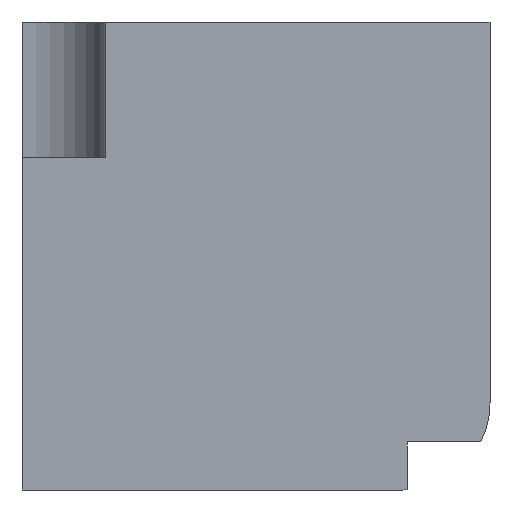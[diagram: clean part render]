
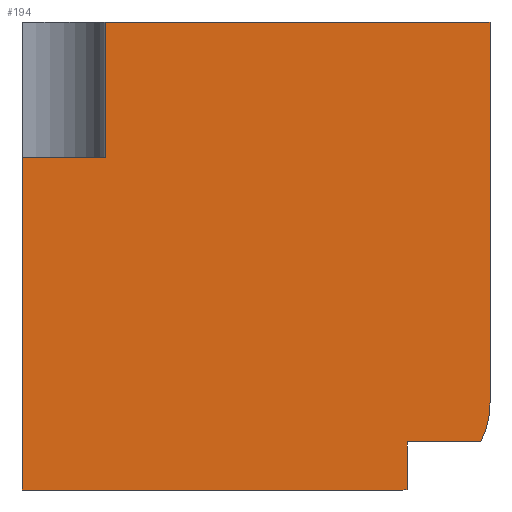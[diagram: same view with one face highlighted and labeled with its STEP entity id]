
A CAD part, left-side view. The second image highlights one B-rep face of the part: STEP entity #194.
In plain terms, the highlighted planar face has unit normal (-1, 0, 0).
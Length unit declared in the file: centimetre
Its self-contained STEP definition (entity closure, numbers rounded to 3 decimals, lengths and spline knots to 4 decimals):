
#6 = DIRECTION ( 'NONE',  ( 0., -1., 0. ) ) ;
#16 = CARTESIAN_POINT ( 'NONE',  ( 0., 1000., 0. ) ) ;
#21 = FACE_OUTER_BOUND ( 'NONE', #786, .T. ) ;
#22 = CARTESIAN_POINT ( 'NONE',  ( 0., 186.0285, 186.0285 ) ) ;
#26 = LINE ( 'NONE', #349, #1265 ) ;
#36 = VERTEX_POINT ( 'NONE', #1398 ) ;
#66 = VECTOR ( 'NONE', #240, 100. ) ;
#97 = ORIENTED_EDGE ( 'NONE', *, *, #914, .F. ) ;
#102 = CARTESIAN_POINT ( 'NONE',  ( 0., 1000., 1000. ) ) ;
#107 = VERTEX_POINT ( 'NONE', #1270 ) ;
#116 = CARTESIAN_POINT ( 'NONE',  ( 0., 176.9254, 0. ) ) ;
#123 = DIRECTION ( 'NONE',  ( 0., -1., 0. ) ) ;
#127 = ORIENTED_EDGE ( 'NONE', *, *, #879, .T. ) ;
#138 = ORIENTED_EDGE ( 'NONE', *, *, #1038, .T. ) ;
#143 = DIRECTION ( 'NONE',  ( 0., 0., -1. ) ) ;
#149 = VECTOR ( 'NONE', #143, 100. ) ;
#158 = EDGE_CURVE ( 'NONE', #706, #1062, #951, .T. ) ;
#170 = VECTOR ( 'NONE', #260, 100. ) ;
#194 = ADVANCED_FACE ( 'NONE', ( #21 ), #373, .F. ) ;
#213 = VERTEX_POINT ( 'NONE', #1436 ) ;
#217 = CARTESIAN_POINT ( 'NONE',  ( 0., 176.9254, 0.2229 ) ) ;
#230 = VECTOR ( 'NONE', #1059, 100. ) ;
#240 = DIRECTION ( 'NONE',  ( 0., -1., 0. ) ) ;
#256 = ORIENTED_EDGE ( 'NONE', *, *, #680, .T. ) ;
#260 = DIRECTION ( 'NONE',  ( 0., 0., -1. ) ) ;
#267 = DIRECTION ( 'NONE',  ( 0., 0., -1. ) ) ;
#315 = VECTOR ( 'NONE', #720, 100. ) ;
#349 = CARTESIAN_POINT ( 'NONE',  ( 0., 1000., 709.7481 ) ) ;
#358 = DIRECTION ( 'NONE',  ( -1., 0., 0. ) ) ;
#373 = PLANE ( 'NONE',  #1296 ) ;
#382 = LINE ( 'NONE', #116, #149 ) ;
#415 = LINE ( 'NONE', #874, #315 ) ;
#493 = CARTESIAN_POINT ( 'NONE',  ( 0., 1000., 1000. ) ) ;
#537 = ORIENTED_EDGE ( 'NONE', *, *, #1033, .T. ) ;
#547 = VERTEX_POINT ( 'NONE', #1223 ) ;
#559 = VECTOR ( 'NONE', #6, 100. ) ;
#562 = ORIENTED_EDGE ( 'NONE', *, *, #849, .T. ) ;
#632 = AXIS2_PLACEMENT_3D ( 'NONE', #22, #1216, #952 ) ;
#634 = CARTESIAN_POINT ( 'NONE',  ( 0., 176.9254, 102.7259 ) ) ;
#659 = ORIENTED_EDGE ( 'NONE', *, *, #1244, .F. ) ;
#672 = LINE ( 'NONE', #102, #230 ) ;
#675 = VERTEX_POINT ( 'NONE', #1135 ) ;
#680 = EDGE_CURVE ( 'NONE', #107, #721, #672, .T. ) ;
#702 = LINE ( 'NONE', #1174, #66 ) ;
#706 = VERTEX_POINT ( 'NONE', #1370 ) ;
#719 = CARTESIAN_POINT ( 'NONE',  ( 0., 0., 102.7259 ) ) ;
#720 = DIRECTION ( 'NONE',  ( 0., 0., -1. ) ) ;
#721 = VERTEX_POINT ( 'NONE', #16 ) ;
#764 = ORIENTED_EDGE ( 'NONE', *, *, #822, .F. ) ;
#786 = EDGE_LOOP ( 'NONE', ( #562, #97, #954, #138, #1120, #764, #537, #659, #256, #127 ) ) ;
#822 = EDGE_CURVE ( 'NONE', #36, #213, #848, .T. ) ;
#840 = VERTEX_POINT ( 'NONE', #1168 ) ;
#848 = LINE ( 'NONE', #1297, #559 ) ;
#849 = EDGE_CURVE ( 'NONE', #547, #1155, #1386, .T. ) ;
#874 = CARTESIAN_POINT ( 'NONE',  ( 0., 822.4959, 709.7481 ) ) ;
#879 = EDGE_CURVE ( 'NONE', #721, #547, #702, .T. ) ;
#907 = VECTOR ( 'NONE', #1414, 100. ) ;
#914 = EDGE_CURVE ( 'NONE', #1062, #1155, #382, .T. ) ;
#951 = LINE ( 'NONE', #719, #907 ) ;
#952 = DIRECTION ( 'NONE',  ( 0., 0., -1. ) ) ;
#954 = ORIENTED_EDGE ( 'NONE', *, *, #158, .F. ) ;
#977 = LINE ( 'NONE', #989, #170 ) ;
#989 = CARTESIAN_POINT ( 'NONE',  ( 0., 0., 1000. ) ) ;
#994 = AXIS2_PLACEMENT_3D ( 'NONE', #1282, #358, #1312 ) ;
#1033 = EDGE_CURVE ( 'NONE', #36, #840, #415, .T. ) ;
#1038 = EDGE_CURVE ( 'NONE', #706, #675, #1165, .T. ) ;
#1053 = EDGE_CURVE ( 'NONE', #213, #675, #977, .T. ) ;
#1059 = DIRECTION ( 'NONE',  ( 0., 0., -1. ) ) ;
#1062 = VERTEX_POINT ( 'NONE', #634 ) ;
#1120 = ORIENTED_EDGE ( 'NONE', *, *, #1053, .F. ) ;
#1135 = CARTESIAN_POINT ( 'NONE',  ( 0., 0., 186.0285 ) ) ;
#1155 = VERTEX_POINT ( 'NONE', #217 ) ;
#1165 = CIRCLE ( 'NONE', #632, 186.0285 ) ;
#1168 = CARTESIAN_POINT ( 'NONE',  ( 0., 822.4959, 709.7481 ) ) ;
#1174 = CARTESIAN_POINT ( 'NONE',  ( 0., 1000., 0. ) ) ;
#1216 = DIRECTION ( 'NONE',  ( -1., 0., 0. ) ) ;
#1223 = CARTESIAN_POINT ( 'NONE',  ( 0., 186.0285, 0. ) ) ;
#1244 = EDGE_CURVE ( 'NONE', #107, #840, #26, .T. ) ;
#1265 = VECTOR ( 'NONE', #123, 100. ) ;
#1270 = CARTESIAN_POINT ( 'NONE',  ( 0., 1000., 709.7481 ) ) ;
#1282 = CARTESIAN_POINT ( 'NONE',  ( 0., 186.0285, 186.0285 ) ) ;
#1296 = AXIS2_PLACEMENT_3D ( 'NONE', #493, #1424, #267 ) ;
#1297 = CARTESIAN_POINT ( 'NONE',  ( 0., 1000., 1000. ) ) ;
#1312 = DIRECTION ( 'NONE',  ( 0., 0., -1. ) ) ;
#1370 = CARTESIAN_POINT ( 'NONE',  ( 0., 19.6936, 102.7259 ) ) ;
#1386 = CIRCLE ( 'NONE', #994, 186.0285 ) ;
#1398 = CARTESIAN_POINT ( 'NONE',  ( 0., 822.4959, 1000. ) ) ;
#1414 = DIRECTION ( 'NONE',  ( 0., 1., 0. ) ) ;
#1424 = DIRECTION ( 'NONE',  ( 1., 0., 0. ) ) ;
#1436 = CARTESIAN_POINT ( 'NONE',  ( 0., 0., 1000. ) ) ;
